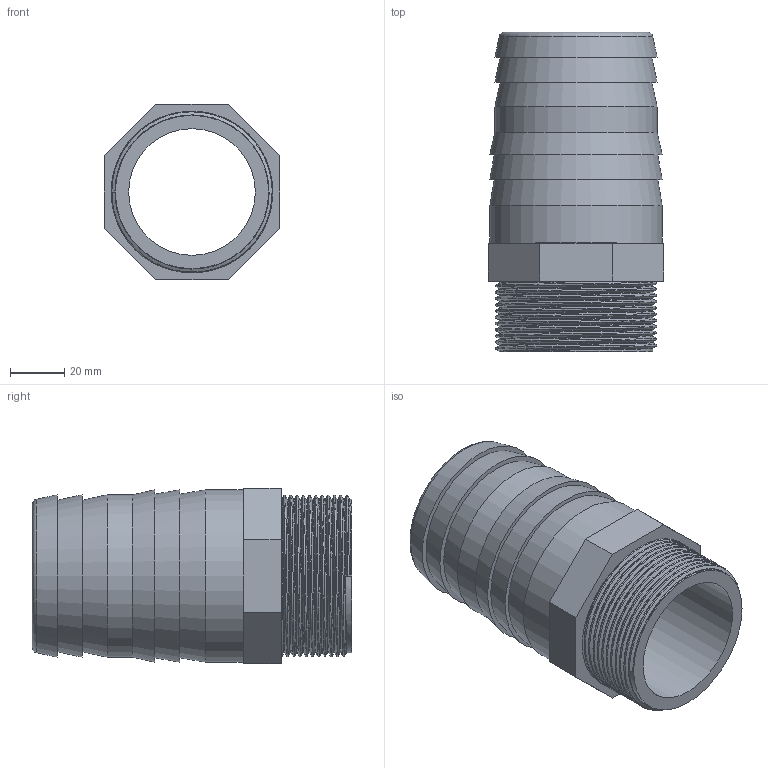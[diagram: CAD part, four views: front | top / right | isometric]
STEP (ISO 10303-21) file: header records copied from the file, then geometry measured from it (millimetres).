
FILE_DESCRIPTION(/* description */ ('PVC portagomma filettato BSP maschio'),/* implementation_level */ '2;1');
FILE_NAME(/* name */ 'C:\Users\POLYPIPE\Desktop\DATASET INVENTOR\LIBRERIA EFFAST\RACCORDI 3DxWEB\RER\3D_RERPGE\3D_RERPGE63G.stp',/* time_stamp */ '2018-01-19T16:55:32+01:00',/* author */ ('POLYPIPE'),/* organization */ ('Polypipe Italia s.r.l.'),/* preprocessor_version */ 'ST-DEVELOPER v16.1',/* originating_system */ 'Autodesk Inventor 2016',/* authorisation */ '');
FILE_SCHEMA (('CONFIG_CONTROL_DESIGN'));
Length unit declared in the file: millimetre
Products named in the file (1): 3D_RERPGE63G
Bounding box: 65 x 118 x 65 mm (x, y, z)
Volume: 140431.2 mm3; surface area: 48299.7 mm2
Topology: 1 solids, 1 shells, 35 faces, 72 edges, 46 vertices
Faces by surface type: plane 18, cone 6, bspline 5, cylinder 5, torus 1
Full cylindrical faces by diameter (mm): 46.8 x1, 56.656 x1, 59 x1, 60 x1, 63.7 x1
Entity records: 5217 total; most frequent: CARTESIAN_POINT 4511, DIRECTION 133, ORIENTED_EDGE 120, EDGE_CURVE 60, EDGE_LOOP 55, AXIS2_PLACEMENT_3D 53, VERTEX_POINT 45, FACE_OUTER_BOUND 35
